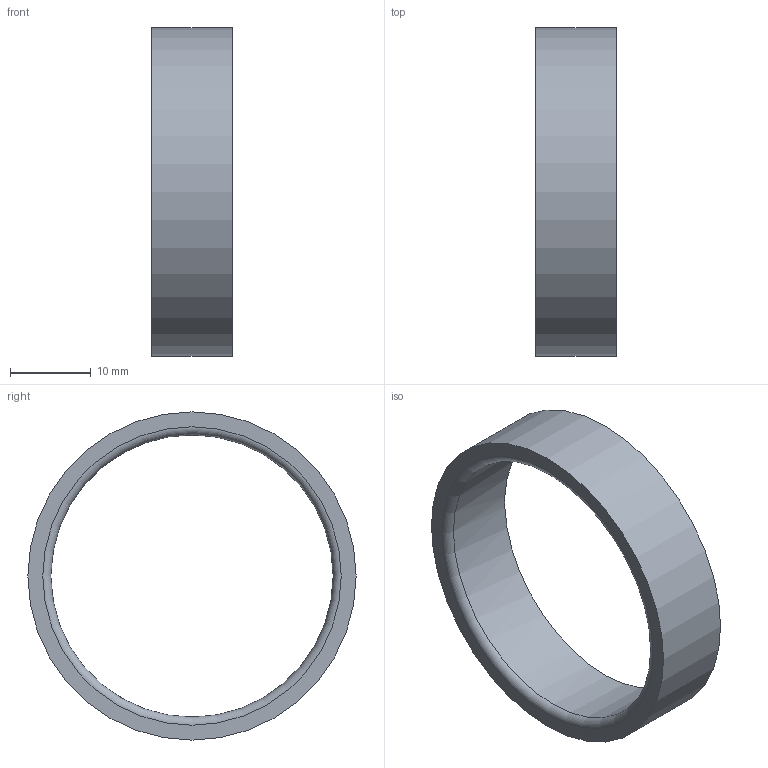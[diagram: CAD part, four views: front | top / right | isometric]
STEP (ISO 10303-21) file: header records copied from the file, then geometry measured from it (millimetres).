
FILE_DESCRIPTION((''),'2;1');
FILE_NAME('K:\Daten\20 64.stp','2014-05-16T14:37:41',('kamp'),(''),'Autodesk Inventor 2008','Autodesk Inventor 2008','');
FILE_SCHEMA(('AUTOMOTIVE_DESIGN { 1 0 10303 214 1 1 1 1 }'));
Length unit declared in the file: millimetre
Products named in the file (1): Bauteil2
Bounding box: 10 x 40.7 x 40.7 mm (x, y, z)
Volume: 3364.6 mm3; surface area: 3012.9 mm2
Topology: 1 solids, 1 shells, 61 faces, 168 edges, 113 vertices
Faces by surface type: plane 37, bspline 19, cylinder 4, torus 1
Full cylindrical faces by diameter (mm): 35 x1, 40.7 x1
Entity records: 2099 total; most frequent: CARTESIAN_POINT 563, ORIENTED_EDGE 328, DIRECTION 226, EDGE_CURVE 164, VECTOR 116, LINE 116, VERTEX_POINT 112, EDGE_LOOP 70
